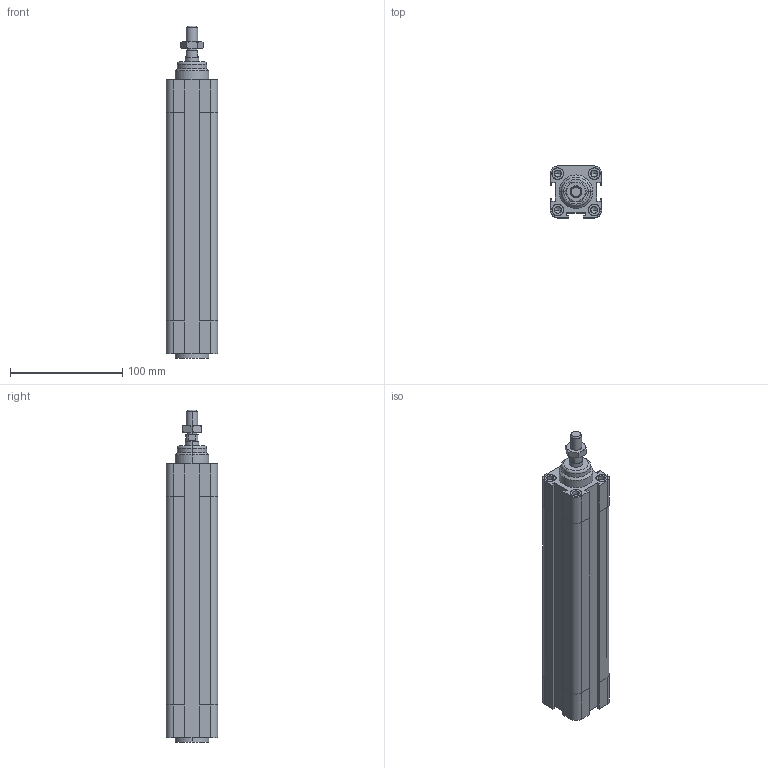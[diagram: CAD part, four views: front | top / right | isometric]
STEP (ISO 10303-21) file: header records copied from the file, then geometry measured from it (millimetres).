
FILE_DESCRIPTION((''),'2;1');
FILE_NAME('F:\Lib-3d\1380\CIL\1380_32_0150_01.stp','2004-01-07T15:58:48',('maffial1'),(''),'Autodesk Inventor 8','Autodesk Inventor 8','');
FILE_SCHEMA(('AUTOMOTIVE_DESIGN { 1 0 10303 214 1 1 1 1 }'));
Length unit declared in the file: millimetre
Products named in the file (4): 1380_32_0150_01; CPP01_32_150; CPP02_32_150; 1320_32_18F
Assembly tree (3 placements, depth 2):
  1380_32_0150_01
    CPP01_32_150
    CPP02_32_150
    1320_32_18F
Bounding box: 46 x 46 x 296 mm (x, y, z)
Volume: 466068 mm3; surface area: 79797.7 mm2
Topology: 3 solids, 3 shells, 244 faces, 570 edges, 356 vertices
Faces by surface type: plane 83, bspline 67, cylinder 58, cone 34, torus 2
Entity records: 7668 total; most frequent: CARTESIAN_POINT 2166, DIRECTION 1136, ORIENTED_EDGE 1108, EDGE_CURVE 554, AXIS2_PLACEMENT_3D 422, VERTEX_POINT 356, VECTOR 292, LINE 292
